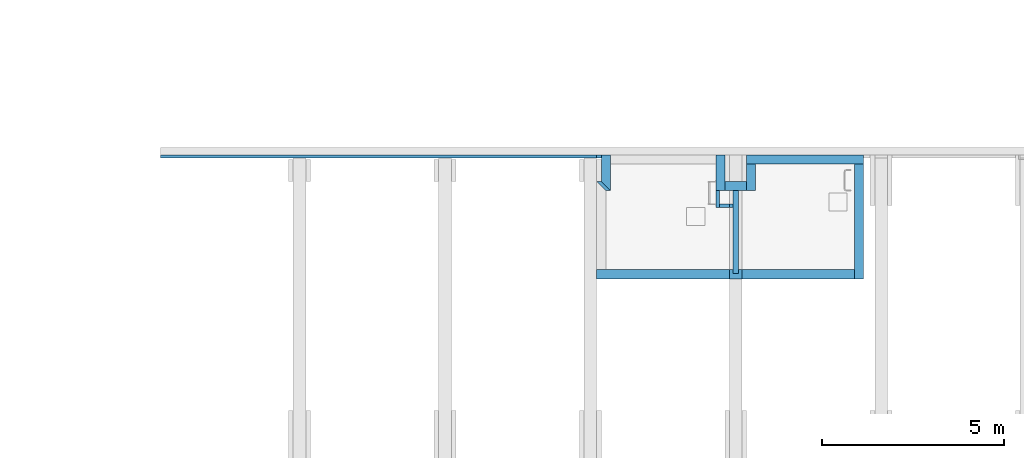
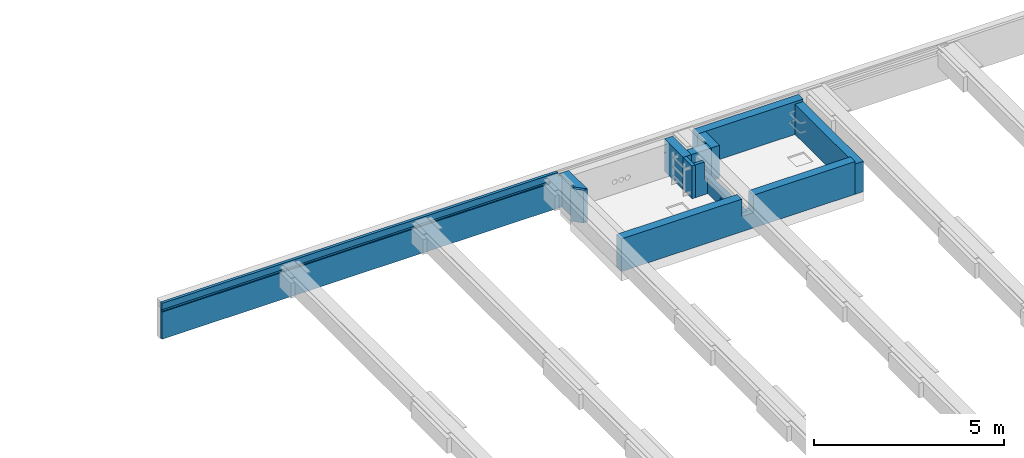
# One storey, part 12 of 17: 12 walls, 2 openings.
"""IFC2X3 building model written with IfcOpenShell, lengths in millimetres."""

import ifcopenshell
import ifcopenshell.guid

model = None  # the IFC model being written
_history = None  # IfcOwnerHistory: only IFC2X3 demands one
_inside = {}  # id of a spatial element -> (the spatial element, [elements in it])
_under = {}  # id of a project, library or spatial element -> (it, [spatial elements below it])
_declared = {}  # id of a project -> (the project, [libraries it declares])
_typed = {}  # id of a type object -> (the type object, [elements of that type])
_made_of = {}  # id of a material, layer set ... -> (it, [elements and type objects made of it])


def new_model(schema):
    """Start an empty IFC model of exactly this schema.

    Asked for "IFC4X3", IfcOpenShell would pick the latest addendum, in which some entities
    have other attributes; the version numbers below select the first issue.
    IFC2X3 requires an IfcOwnerHistory on every rooted entity: one is made here for all.
    """
    global model, _history
    if schema == "IFC4X3":
        model = ifcopenshell.file(schema_version=(4, 3, 0, 0))
    else:
        model = ifcopenshell.file(schema=schema)
    _inside.clear()
    _under.clear()
    _declared.clear()
    _typed.clear()
    _made_of.clear()
    _history = None
    if model.schema == "IFC2X3":
        org = make("IfcOrganization", Name="unknown")
        user = make(
            "IfcPersonAndOrganization",
            ThePerson=make("IfcPerson", FamilyName="unknown"),
            TheOrganization=org,
        )
        app = make(
            "IfcApplication",
            ApplicationDeveloper=org,
            Version="unknown",
            ApplicationFullName="unknown",
            ApplicationIdentifier="unknown",
        )
        _history = make(
            "IfcOwnerHistory",
            OwningUser=user,
            OwningApplication=app,
            ChangeAction="ADDED",
            CreationDate=0,
        )
    return model


def make(cls, **values):
    """One entity of the class cls with the attributes given. An attribute that is None is left unset."""
    return model.create_entity(
        cls, **{name: value for name, value in values.items() if value is not None}
    )


def entity(cls, *values):
    """Any entity or typed value of the class cls, its attributes in the order of the schema. None: left unset."""
    e = model.create_entity(cls)
    for i, value in enumerate(values):
        if value is not None:
            e[i] = value
    return e


def rooted(cls, **values):
    """An entity with a GlobalId (a new one), such as an element, a storey or a relation."""
    return make(cls, GlobalId=ifcopenshell.guid.new(), OwnerHistory=_history, **values)


def si_unit(unit_type, name, prefix=None):
    """IfcSIUnit, for example si_unit("LENGTHUNIT", "METRE", prefix="MILLI")."""
    return make("IfcSIUnit", UnitType=unit_type, Prefix=prefix, Name=name)


def converted_unit(unit_type, name, factor, base, dimensions=None, offset=None):
    """IfcConversionBasedUnit, such as the inch: factor (a typed value) times the base unit."""
    return make(
        "IfcConversionBasedUnit"
        if offset is None
        else "IfcConversionBasedUnitWithOffset",
        ConversionOffset=offset,
        Dimensions=None
        if dimensions is None
        else entity("IfcDimensionalExponents", *dimensions),
        UnitType=unit_type,
        Name=name,
        ConversionFactor=make(
            "IfcMeasureWithUnit", ValueComponent=factor, UnitComponent=base
        ),
    )


def derived_unit(unit_type, elements):
    """IfcDerivedUnit: a product of units, each with its exponent."""
    return make(
        "IfcDerivedUnit",
        Elements=[
            make("IfcDerivedUnitElement", Unit=unit, Exponent=power)
            for unit, power in elements
        ],
        UnitType=unit_type,
    )


def money_unit(currency):
    """IfcMonetaryUnit."""
    return make("IfcMonetaryUnit", Currency=currency)


def assignment(units):
    """IfcUnitAssignment: the units of a project."""
    return None if units is None else make("IfcUnitAssignment", Units=units)


def point(xyz):
    """IfcCartesianPoint."""
    return None if xyz is None else make("IfcCartesianPoint", Coordinates=xyz)


def direction(xyz):
    """IfcDirection."""
    return None if xyz is None else make("IfcDirection", DirectionRatios=xyz)


def frame(location, z_axis=None, x_axis=None):
    """IfcAxis2Placement3D, a coordinate frame: its origin and axes. An axis left out is left unset."""
    return make(
        "IfcAxis2Placement3D",
        Location=point(location),
        Axis=direction(z_axis),
        RefDirection=direction(x_axis),
    )


def origin_with_axes():
    """The frame at (0, 0, 0) with the z axis (0, 0, 1) and the x axis (1, 0, 0) written out."""
    return frame((0.0, 0.0, 0.0), z_axis=(0.0, 0.0, 1.0), x_axis=(1.0, 0.0, 0.0))


def place(relative_to, where):
    """IfcLocalPlacement: puts the frame where relative to a parent placement (None: the world)."""
    return make(
        "IfcLocalPlacement", PlacementRelTo=relative_to, RelativePlacement=where
    )


def context(
    kind, dimensions, precision=None, world=None, true_north=None, identifier=None
):
    """IfcGeometricRepresentationContext, for example the 3D "Model" context."""
    return make(
        "IfcGeometricRepresentationContext",
        ContextIdentifier=identifier,
        ContextType=kind,
        CoordinateSpaceDimension=dimensions,
        Precision=precision,
        WorldCoordinateSystem=world,
        TrueNorth=true_north,
    )


def subcontext(parent, identifier, kind, view, scale=None):
    """IfcGeometricRepresentationSubContext, for example "Body" below "Model"."""
    return make(
        "IfcGeometricRepresentationSubContext",
        ContextIdentifier=identifier,
        ContextType=kind,
        ParentContext=parent,
        TargetScale=scale,
        TargetView=view,
    )


def project(units=None, contexts=None):
    """IfcProject with its units and contexts."""
    return rooted(
        "IfcProject",
        Name="project",
        RepresentationContexts=contexts,
        UnitsInContext=assignment(units),
    )


def spatial(cls, under=None, at=None, **own):
    """A site, building, storey or space (cls), placed at a placement, below another one or the project."""
    s = rooted(cls, ObjectPlacement=at, **own)
    if under is not None:
        _under.setdefault(under.id(), (under, []))[1].append(s)
    return s


def faces_of(points, faces, orient=None, outer=None):
    """IfcFace entities. A face is a list of loops; a loop is a list of indices into points, from 0.

    orient and outer hold one flag for each loop. By default every Orientation is true, the
    first loop of a face is its IfcFaceOuterBound and the others are IfcFaceBound.
    """
    made = []
    for i, loops in enumerate(faces):
        bounds = []
        for j, loop in enumerate(loops):
            is_outer = j == 0 if outer is None else outer[i][j]
            bounds.append(
                make(
                    "IfcFaceOuterBound" if is_outer else "IfcFaceBound",
                    Bound=make("IfcPolyLoop", Polygon=[points[k] for k in loop]),
                    Orientation=True if orient is None else orient[i][j],
                )
            )
        made.append(make("IfcFace", Bounds=bounds))
    return made


def faceted_brep(points, faces, orient=None, outer=None, voids=None):
    """IfcFacetedBrep: a solid bounded by flat faces; with voids (closed shells), ...WithVoids."""
    shared = [point(p) for p in points]
    hull = make("IfcClosedShell", CfsFaces=faces_of(shared, faces, orient, outer))
    if voids is None:
        return make("IfcFacetedBrep", Outer=hull)
    return make(
        "IfcFacetedBrepWithVoids",
        Outer=hull,
        Voids=[
            make(cls, CfsFaces=faces_of(shared, fs, o, b)) for cls, fs, o, b in voids
        ],
    )


def shape(context_of_items, identifier, shape_type, items):
    """IfcShapeRepresentation: the items that make up one representation, for example the "Body"."""
    return make(
        "IfcShapeRepresentation",
        ContextOfItems=context_of_items,
        RepresentationIdentifier=identifier,
        RepresentationType=shape_type,
        Items=items,
    )


def material(Name=None, Category=None):
    """IfcMaterial."""
    return make("IfcMaterial", Name=Name, Category=Category)


def made_of(thing, what):
    """Note that an element or type object is made of a material, layer set ...; save() writes the relation."""
    if what is not None:
        _made_of.setdefault(what.id(), (what, []))[1].append(thing)
    return thing


def type_object(cls, material=None, **own):
    """A type object (cls), such as IfcWallType, which elements share."""
    return made_of(rooted(cls, **own), material)


def element(
    cls,
    number,
    at=None,
    inside=None,
    cuts=None,
    type_object=None,
    material=None,
    context=None,
    identifier="Body",
    shape_type=None,
    held_by="IfcProductDefinitionShape",
    body=None,
    shapes=None,
    **own,
):
    """One element of the class cls, such as IfcWall. Its Tag is "e" and its number.

    at: its placement. inside: the storey or other place that contains it. cuts: it is an
    opening in that element (IfcRelVoidsElement). A single representation is given by context,
    identifier, shape_type and body (its items); several are given by shapes. held_by: the class
    of the entity that holds the representations. save() writes the other relations.
    """
    e = rooted(cls, Tag="e%d" % number, ObjectPlacement=at, **own)
    if body is not None:
        shapes = [shape(context, identifier, shape_type, body)]
    if shapes is not None:
        e.Representation = make(held_by, Representations=shapes)
    if inside is not None:
        _inside.setdefault(inside.id(), (inside, []))[1].append(e)
    if cuts is not None:
        rooted(
            "IfcRelVoidsElement", RelatingBuildingElement=cuts, RelatedOpeningElement=e
        )
    if type_object is not None:
        _typed.setdefault(type_object.id(), (type_object, []))[1].append(e)
    return made_of(e, material)


def aggregate(whole, parts):
    """IfcRelAggregates: a whole, such as a stair, and the parts it consists of."""
    return rooted("IfcRelAggregates", RelatingObject=whole, RelatedObjects=parts)


def save(model, path):
    """Write the relations noted so far, then the file.

    IfcRelAggregates (storeys below a building ...), IfcRelContainedInSpatialStructure (elements
    in a storey), IfcRelDefinesByType, IfcRelAssociatesMaterial and IfcRelDeclares: one each for
    every whole, place, type object, material and project.
    """
    for whole, parts in _under.values():
        aggregate(whole, parts)
    for where, things in _inside.values():
        rooted(
            "IfcRelContainedInSpatialStructure",
            RelatedElements=things,
            RelatingStructure=where,
        )
    for kind, things in _typed.values():
        rooted("IfcRelDefinesByType", RelatedObjects=things, RelatingType=kind)
    for what, things in _made_of.values():
        rooted("IfcRelAssociatesMaterial", RelatedObjects=things, RelatingMaterial=what)
    for by, libraries in _declared.values():
        rooted("IfcRelDeclares", RelatingContext=by, RelatedDefinitions=libraries)
    model.write(path)


model = new_model("IFC2X3")

# Units and contexts
model_context = context("Model", 3, precision=0.01, world=origin_with_axes(), true_north=direction((0.0, 1.0)))
body_context = subcontext(model_context, "Body", "Model", "MODEL_VIEW")
ifc_project = project(units=[si_unit("LENGTHUNIT", "METRE", prefix="MILLI"), si_unit("AREAUNIT", "SQUARE_METRE"), si_unit("VOLUMEUNIT", "CUBIC_METRE"), converted_unit("PLANEANGLEUNIT", "DEGREE", entity("IfcPlaneAngleMeasure", 0.0174532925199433), si_unit("PLANEANGLEUNIT", "RADIAN"), dimensions=[0, 0, 0, 0, 0, 0, 0]), money_unit("EUR"), converted_unit("TIMEUNIT", "Year", entity("IfcTimeMeasure", 31557600.0), si_unit("TIMEUNIT", "SECOND"), dimensions=[0, 0, 1, 0, 0, 0, 0]), si_unit("MASSUNIT", "GRAM", prefix="KILO"), si_unit("THERMODYNAMICTEMPERATUREUNIT", "DEGREE_CELSIUS"), si_unit("LUMINOUSINTENSITYUNIT", "LUMEN"), si_unit("ENERGYUNIT", "JOULE", prefix="MEGA"), derived_unit("THERMALCONDUCTANCEUNIT", [(si_unit("POWERUNIT", "WATT"), 1), (si_unit("LENGTHUNIT", "METRE"), -1), (si_unit("THERMODYNAMICTEMPERATUREUNIT", "KELVIN"), -1)]), derived_unit("SPECIFICHEATCAPACITYUNIT", [(si_unit("ENERGYUNIT", "JOULE"), 1), (si_unit("MASSUNIT", "GRAM", prefix="KILO"), -1), (si_unit("THERMODYNAMICTEMPERATUREUNIT", "KELVIN"), -1)]), derived_unit("MASSDENSITYUNIT", [(si_unit("MASSUNIT", "GRAM", prefix="KILO"), 1), (si_unit("VOLUMEUNIT", "CUBIC_METRE"), -1)])], contexts=[model_context])

# Site, building, storey
site_placement = place(None, origin_with_axes())
site = spatial("IfcSite", under=ifc_project, at=site_placement, Name="<site naam>", CompositionType="ELEMENT")
building_placement = place(site_placement, origin_with_axes())
building = spatial("IfcBuilding", under=site, at=building_placement, Name="<Naam gebouw>", CompositionType="ELEMENT")
storey_placement = place(building_placement, frame((0.0, 0.0, -1100.0), z_axis=(0.0, 0.0, 1.0), x_axis=(1.0, 0.0, 0.0)))
storey = spatial("IfcBuildingStorey", under=building, at=storey_placement, Name="-1 Fundering", CompositionType="ELEMENT", Elevation=-1100.0)

# Wall
ifc_material_1 = material(Name="ALG - ISOLATIE")
wall_type_1 = type_object("IfcWallType", Name="ALG - ISOLATIE 85", PredefinedType="NOTDEFINED")
wall_1_placement = place(storey_placement, frame((40300.00000000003, 20135.00000000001, -50.00000000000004), z_axis=(0.0, 0.0, 1.0), x_axis=(-1.0, 0.0, 0.0)))
element("IfcWall", 1, at=wall_1_placement, inside=storey, type_object=wall_type_1, material=ifc_material_1, Name="21_Binnenwand_ALG", context=body_context, shape_type="Brep", body=[
    faceted_brep([(12125.0, 0.0, 1150.0), (125.0000481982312, 1.472790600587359e-05, 1150.0), (125.0000481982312, 1.472790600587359e-05, 1030.0), (0.0, 1.472790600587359e-05, 1030.0), (0.0, 0.0, 0.0), (12125.0, 0.0, 0.0), (12125.0, 85.0000000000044, 1150.0), (125.0000481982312, 85.00000000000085, 1150.0), (125.0000481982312, 85.00000000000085, 1030.0), (0.0, 85.00000000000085, 1030.0), (0.0, 85.00000000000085, 0.0), (12125.0, 85.0000000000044, 0.0), (12125.0, 50.00000000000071, 870.0000000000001), (12125.0, 50.00000000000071, 950.0000000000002), (12125.0, 85.0000000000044, 950.0000000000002), (12125.0, 85.0000000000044, 870.0000000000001), (374.9999999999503, 85.00000000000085, 950.0000000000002), (374.9999999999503, 85.00000000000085, 870.0000000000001), (374.9999999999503, 49.99999999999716, 950.0000000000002), (374.9999999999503, 49.99999999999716, 870.0000000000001)], [[[0, 1, 2, 3, 4, 5]], [[6, 7, 1, 0]], [[8, 2, 1, 7]], [[8, 9, 3, 2]], [[4, 3, 9, 10]], [[11, 5, 4, 10]], [[12, 13, 14, 6, 0, 5, 11, 15]], [[9, 8, 7, 6, 14, 16, 17, 15, 11, 10]], [[18, 13, 12, 19]], [[18, 16, 14, 13]], [[12, 15, 17, 19]], [[19, 17, 16, 18]]]),
])

# Wall, opening
ifc_material_2 = material(Name="kalkzandsteen")
wall_type_2 = type_object("IfcWallType", Name="kalkzandsteen 150", PredefinedType="NOTDEFINED")
wall_2_placement = place(storey_placement, frame((44000.00000000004, 19400.00000000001, -70.00000000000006), z_axis=(0.0, 0.0, 1.0), x_axis=(0.0, -1.0, 0.0)))
wall_2 = element("IfcWall", 2, at=wall_2_placement, inside=storey, type_object=wall_type_2, material=ifc_material_2, Name="22_Binnenwand_kalkzandsteen", context=body_context, shape_type="Brep", body=[
    faceted_brep([(250.0, -75.00000000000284, 490.0), (250.0, 75.00000000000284, 490.0), (250.0, 75.00000000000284, 0.0), (250.0, -75.00000000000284, 0.0), (2525.050153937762, 75.00000000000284, 490.0), (2525.050153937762, -75.00000000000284, 490.0), (2525.050153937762, 75.00000000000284, 0.0), (2525.050153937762, -75.00000000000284, 0.0)], [[[0, 1, 2, 3]], [[4, 1, 0, 5]], [[1, 4, 6, 2]], [[3, 2, 6, 7]], [[5, 0, 3, 7]], [[4, 5, 7, 6]]]),
])
opening_1_placement = place(wall_2_placement, frame((19400.00000000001, -44000.00000000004, 1170.0), z_axis=(0.0, 0.0, 1.0), x_axis=(0.0, 1.0, 0.0)))
element("IfcOpeningElement", 3, at=opening_1_placement, cuts=wall_2, Name="22_vloerluik_", context=body_context, shape_type="Brep", body=[
    faceted_brep([(43775.00000000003, 17899.94041759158, -970.0000000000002), (43775.00000000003, 17899.94041759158, -976.5616497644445), (44225.00000000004, 17899.94041759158, -976.5616497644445), (44225.00000000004, 17899.94041759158, -970.0000000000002), (43775.00000000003, 17899.94041759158, -963.438350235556), (43775.00000000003, 17902.21925463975, -950.514423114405), (43775.00000000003, 17906.70768742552, -938.1825553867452), (43775.00000000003, 17913.26933718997, -926.8174446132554), (43775.00000000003, 17921.70483152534, -916.7644139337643), (43775.00000000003, 17931.75786220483, -908.3289195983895), (43775.00000000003, 17943.12297297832, -901.7672698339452), (43775.00000000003, 17955.45484070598, -897.2788370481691), (43775.00000000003, 17968.37876782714, -895.0000000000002), (43775.00000000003, 17974.94041759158, -895.0000000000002), (43775.00000000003, 17981.50206735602, -895.0000000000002), (43775.00000000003, 17994.42599447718, -897.2788370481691), (43775.00000000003, 18006.75786220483, -901.7672698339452), (43775.00000000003, 18018.12297297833, -908.3289195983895), (43775.00000000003, 18028.17600365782, -916.7644139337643), (43775.00000000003, 18036.61149799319, -926.8174446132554), (43775.00000000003, 18043.17314775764, -938.1825553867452), (43775.00000000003, 18047.66158054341, -950.5144231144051), (43775.00000000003, 18049.94041759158, -963.438350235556), (43775.00000000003, 18049.94041759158, -970.0000000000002), (43775.00000000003, 18049.94041759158, -976.5616497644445), (43775.00000000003, 18047.66158054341, -989.4855768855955), (43775.00000000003, 18043.17314775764, -1001.817444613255), (43775.00000000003, 18036.61149799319, -1013.182555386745), (43775.00000000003, 18028.17600365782, -1023.235586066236), (43775.00000000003, 18018.12297297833, -1031.671080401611), (43775.00000000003, 18006.75786220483, -1038.232730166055), (43775.00000000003, 17994.42599447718, -1042.721162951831), (43775.00000000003, 17981.50206735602, -1045.0), (43775.00000000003, 17974.94041759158, -1045.0), (43775.00000000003, 17968.37876782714, -1045.0), (43775.00000000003, 17955.45484070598, -1042.721162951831), (43775.00000000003, 17943.12297297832, -1038.232730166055), (43775.00000000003, 17931.75786220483, -1031.671080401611), (43775.00000000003, 17921.70483152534, -1023.235586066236), (43775.00000000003, 17913.26933718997, -1013.182555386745), (43775.00000000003, 17906.70768742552, -1001.817444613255), (43775.00000000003, 17902.21925463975, -989.4855768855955), (44225.00000000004, 17902.21925463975, -989.4855768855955), (44225.00000000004, 17906.70768742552, -1001.817444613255), (44225.00000000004, 17913.26933718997, -1013.182555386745), (44225.00000000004, 17921.70483152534, -1023.235586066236), (44225.00000000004, 17931.75786220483, -1031.671080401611), (44225.00000000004, 17943.12297297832, -1038.232730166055), (44225.00000000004, 17955.45484070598, -1042.721162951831), (44225.00000000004, 17968.37876782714, -1045.0), (44225.00000000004, 17974.94041759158, -1045.0), (44225.00000000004, 17981.50206735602, -1045.0), (44225.00000000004, 17994.42599447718, -1042.721162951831), (44225.00000000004, 18006.75786220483, -1038.232730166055), (44225.00000000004, 18018.12297297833, -1031.671080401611), (44225.00000000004, 18028.17600365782, -1023.235586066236), (44225.00000000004, 18036.61149799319, -1013.182555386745), (44225.00000000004, 18043.17314775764, -1001.817444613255), (44225.00000000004, 18047.66158054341, -989.4855768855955), (44225.00000000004, 18049.94041759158, -976.5616497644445), (44225.00000000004, 18049.94041759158, -970.0000000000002), (44225.00000000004, 18049.94041759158, -963.438350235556), (44225.00000000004, 18047.66158054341, -950.5144231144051), (44225.00000000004, 18043.17314775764, -938.1825553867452), (44225.00000000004, 18036.61149799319, -926.8174446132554), (44225.00000000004, 18028.17600365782, -916.7644139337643), (44225.00000000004, 18018.12297297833, -908.3289195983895), (44225.00000000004, 18006.75786220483, -901.7672698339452), (44225.00000000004, 17994.42599447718, -897.2788370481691), (44225.00000000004, 17981.50206735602, -895.0000000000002), (44225.00000000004, 17974.94041759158, -895.0000000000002), (44225.00000000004, 17968.37876782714, -895.0000000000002), (44225.00000000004, 17955.45484070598, -897.2788370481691), (44225.00000000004, 17943.12297297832, -901.7672698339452), (44225.00000000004, 17931.75786220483, -908.3289195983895), (44225.00000000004, 17921.70483152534, -916.7644139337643), (44225.00000000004, 17913.26933718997, -926.8174446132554), (44225.00000000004, 17906.70768742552, -938.1825553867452), (44225.00000000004, 17902.21925463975, -950.514423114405), (44225.00000000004, 17899.94041759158, -963.438350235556)], [[[0, 1, 2, 3]], [[0, 4, 5, 6, 7, 8, 9, 10, 11, 12, 13, 14, 15, 16, 17, 18, 19, 20, 21, 22, 23, 24, 25, 26, 27, 28, 29, 30, 31, 32, 33, 34, 35, 36, 37, 38, 39, 40, 41, 1]], [[1, 41, 42, 2]], [[3, 2, 42, 43, 44, 45, 46, 47, 48, 49, 50, 51, 52, 53, 54, 55, 56, 57, 58, 59, 60, 61, 62, 63, 64, 65, 66, 67, 68, 69, 70, 71, 72, 73, 74, 75, 76, 77, 78, 79]], [[4, 0, 3, 79]], [[5, 4, 79, 78]], [[6, 5, 78, 77]], [[7, 6, 77, 76]], [[8, 7, 76, 75]], [[9, 8, 75, 74]], [[10, 9, 74, 73]], [[11, 10, 73, 72]], [[12, 11, 72, 71]], [[13, 12, 71, 70]], [[14, 13, 70, 69]], [[15, 14, 69, 68]], [[16, 15, 68, 67]], [[17, 16, 67, 66]], [[18, 17, 66, 65]], [[19, 18, 65, 64]], [[20, 19, 64, 63]], [[21, 20, 63, 62]], [[22, 21, 62, 61]], [[23, 22, 61, 60]], [[24, 23, 60, 59]], [[25, 24, 59, 58]], [[26, 25, 58, 57]], [[27, 26, 57, 56]], [[28, 27, 56, 55]], [[29, 28, 55, 54]], [[30, 29, 54, 53]], [[31, 30, 53, 52]], [[32, 31, 52, 51]], [[33, 32, 51, 50]], [[34, 33, 50, 49]], [[35, 34, 49, 48]], [[36, 35, 48, 47]], [[37, 36, 47, 46]], [[38, 37, 46, 45]], [[39, 38, 45, 44]], [[40, 39, 44, 43]], [[41, 40, 43, 42]]]),
])

# Walls
ifc_material_3 = material(Name="beton")
wall_type_3 = type_object("IfcWallType", Name="beton 250", PredefinedType="NOTDEFINED")
wall_3_placement = place(storey_placement, frame((47512.88438913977, 20135.00000000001, -70.00000000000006), z_axis=(0.0, 0.0, 1.0), x_axis=(0.0, -1.0, 0.0)))
element("IfcWall", 4, at=wall_3_placement, inside=storey, type_object=wall_type_3, material=ifc_material_3, Name="22_Binnenwand_beton", context=body_context, shape_type="Brep", body=[
    faceted_brep([(250.0, -250.0, 970.0000000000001), (250.0, 0.0, 970.0000000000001), (250.0, 0.0, 20.00000000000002), (250.0, -250.0, 20.00000000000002), (3410.050165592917, 0.0, 970.0000000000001), (3410.050165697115, -250.0, 970.0000000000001), (3410.050137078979, 0.0, 0.0), (0.0, 0.0, 0.0), (0.0, 0.0, 20.00000000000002), (0.0, -250.0, 20.00000000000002), (0.0, -250.0, 0.0), (3410.050138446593, -250.0, 0.0)], [[[0, 1, 2, 3]], [[4, 1, 0, 5]], [[1, 4, 6, 7, 8, 2]], [[2, 8, 9, 3]], [[5, 0, 3, 9, 10, 11]], [[4, 5, 11, 6]], [[11, 10, 7, 6]], [[9, 8, 7, 10]]]),
])
wall_4_placement = place(storey_placement, frame((47512.88438913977, 16724.94986292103, -96.99999999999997), z_axis=(0.0, 0.0, 1.0), x_axis=(-1.0, -5.470459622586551e-09, 0.0)))
element("IfcWall", 5, at=wall_4_placement, inside=storey, type_object=wall_type_3, material=ifc_material_3, Name="22_Binnenwand_beton", context=body_context, shape_type="Brep", body=[
    faceted_brep([(7337.884391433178, -250.0000401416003, 1077.0), (3687.884387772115, -250.0000201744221, 1077.0), (3687.884387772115, -250.0000201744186, 516.9999999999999), (3337.884387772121, -250.0000182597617, 516.9999999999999), (3337.884387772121, -250.0000182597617, 1077.0), (249.9999986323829, -250.0000013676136, 1077.0), (249.9999986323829, -250.0000013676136, 26.99999999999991), (7337.884423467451, -250.0000401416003, 26.99999999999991), (7337.884392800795, -9.275996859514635e-06, 1077.0), (3687.884389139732, 1.069118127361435e-05, 1077.0), (3687.884389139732, 7.48851647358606e-06, 516.9999999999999), (3337.884389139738, 9.403173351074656e-06, 516.9999999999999), (3337.884389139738, 1.260584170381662e-05, 1077.0), (250.0, 2.94979898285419e-05, 1077.0), (250.0, 2.629532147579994e-05, 26.99999999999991), (7337.884424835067, -1.24786652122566e-05, 26.99999999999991)], [[[0, 1, 2, 3, 4, 5, 6, 7]], [[0, 8, 9, 1]], [[9, 10, 2, 1]], [[10, 11, 3, 2]], [[3, 11, 12, 4]], [[13, 5, 4, 12]], [[5, 13, 14, 6]], [[7, 6, 14, 15]], [[8, 0, 7, 15]], [[12, 11, 10, 9, 8, 15, 14, 13]]]),
])

# Wall, opening
wall_5_placement = place(storey_placement, frame((47512.88438913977, 20135.00000000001, -70.00000000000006), z_axis=(0.0, 0.0, 1.0), x_axis=(-1.0, 0.0, 0.0)))
wall_5 = element("IfcWall", 6, at=wall_5_placement, inside=storey, type_object=wall_type_3, material=ifc_material_3, Name="22_Binnenwand_beton", context=body_context, shape_type="Brep", body=[
    faceted_brep([(250.0, 0.0, 0.0), (3212.884389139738, 0.0, 0.0), (3212.884389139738, 1.472790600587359e-05, 1050.0), (0.0, 1.472790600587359e-05, 1050.0), (0.0, 0.0, 20.00000000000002), (250.0, 0.0, 20.00000000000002), (250.0, 250.0, 0.0), (3212.884389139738, 250.0, 0.0), (3212.884389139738, 250.0, 1050.0), (0.0, 250.0, 1050.0), (0.0, 250.0, 20.00000000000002), (250.0, 250.0, 20.00000000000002)], [[[0, 1, 2, 3, 4, 5]], [[6, 7, 1, 0]], [[1, 7, 8, 2]], [[2, 8, 9, 3]], [[10, 4, 3, 9]], [[4, 10, 11, 5]], [[5, 11, 6, 0]], [[11, 10, 9, 8, 7, 6]]]),
])
opening_2_placement = place(wall_5_placement, frame((47512.88438913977, 20135.00000000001, 1170.0), z_axis=(0.0, 0.0, 1.0), x_axis=(-1.0, 0.0, 0.0)))
element("IfcOpeningElement", 7, at=opening_2_placement, cuts=wall_5, Name="22_vloerluik_", context=body_context, shape_type="Brep", body=[
    faceted_brep([(47137.88437245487, 20385.00000000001, -725.0), (47137.88437245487, 20385.00000000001, -727.1872165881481), (47137.88437245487, 19635.00000000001, -727.1872165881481), (47137.88437245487, 19635.00000000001, -725.0), (47137.88437245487, 20385.00000000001, -722.8127834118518), (47138.64398480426, 20385.00000000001, -718.5048077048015), (47140.14012906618, 20385.00000000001, -714.394185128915), (47142.32734565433, 20385.00000000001, -710.6058148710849), (47145.13917709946, 20385.00000000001, -707.254804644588), (47148.49018732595, 20385.00000000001, -704.442973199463), (47152.27855758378, 20385.00000000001, -702.255756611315), (47156.38918015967, 20385.00000000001, -700.7596123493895), (47160.69715586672, 20385.00000000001, -700.0), (47162.88437245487, 20385.00000000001, -700.0), (47165.07158904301, 20385.00000000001, -700.0), (47169.37956475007, 20385.00000000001, -700.7596123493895), (47173.49018732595, 20385.00000000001, -702.255756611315), (47177.27855758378, 20385.00000000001, -704.442973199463), (47180.62956781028, 20385.00000000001, -707.254804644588), (47183.44139925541, 20385.00000000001, -710.6058148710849), (47185.62861584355, 20385.00000000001, -714.394185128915), (47187.12476010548, 20385.00000000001, -718.5048077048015), (47187.88437245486, 20385.00000000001, -722.8127834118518), (47187.88437245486, 20385.00000000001, -725.0), (47187.88437245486, 20385.00000000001, -727.1872165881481), (47187.12476010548, 20385.00000000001, -731.4951922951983), (47185.62861584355, 20385.00000000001, -735.605814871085), (47183.44139925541, 20385.00000000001, -739.394185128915), (47180.62956781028, 20385.00000000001, -742.745195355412), (47177.27855758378, 20385.00000000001, -745.557026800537), (47173.49018732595, 20385.00000000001, -747.7442433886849), (47169.37956475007, 20385.00000000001, -749.2403876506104), (47165.07158904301, 20385.00000000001, -750.0), (47162.88437245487, 20385.00000000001, -750.0), (47160.69715586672, 20385.00000000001, -750.0), (47156.38918015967, 20385.00000000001, -749.2403876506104), (47152.27855758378, 20385.00000000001, -747.7442433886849), (47148.49018732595, 20385.00000000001, -745.557026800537), (47145.13917709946, 20385.00000000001, -742.745195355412), (47142.32734565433, 20385.00000000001, -739.394185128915), (47140.14012906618, 20385.00000000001, -735.605814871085), (47138.64398480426, 20385.00000000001, -731.4951922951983), (47138.64398480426, 19635.00000000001, -731.4951922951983), (47140.14012906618, 19635.00000000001, -735.605814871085), (47142.32734565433, 19635.00000000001, -739.394185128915), (47145.13917709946, 19635.00000000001, -742.745195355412), (47148.49018732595, 19635.00000000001, -745.557026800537), (47152.27855758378, 19635.00000000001, -747.7442433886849), (47156.38918015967, 19635.00000000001, -749.2403876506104), (47160.69715586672, 19635.00000000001, -750.0), (47162.88437245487, 19635.00000000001, -750.0), (47165.07158904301, 19635.00000000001, -750.0), (47169.37956475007, 19635.00000000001, -749.2403876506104), (47173.49018732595, 19635.00000000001, -747.7442433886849), (47177.27855758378, 19635.00000000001, -745.557026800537), (47180.62956781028, 19635.00000000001, -742.745195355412), (47183.44139925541, 19635.00000000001, -739.394185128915), (47185.62861584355, 19635.00000000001, -735.605814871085), (47187.12476010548, 19635.00000000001, -731.4951922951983), (47187.88437245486, 19635.00000000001, -727.1872165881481), (47187.88437245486, 19635.00000000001, -725.0), (47187.88437245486, 19635.00000000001, -722.8127834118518), (47187.12476010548, 19635.00000000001, -718.5048077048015), (47185.62861584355, 19635.00000000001, -714.394185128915), (47183.44139925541, 19635.00000000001, -710.6058148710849), (47180.62956781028, 19635.00000000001, -707.254804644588), (47177.27855758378, 19635.00000000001, -704.442973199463), (47173.49018732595, 19635.00000000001, -702.255756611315), (47169.37956475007, 19635.00000000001, -700.7596123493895), (47165.07158904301, 19635.00000000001, -700.0), (47162.88437245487, 19635.00000000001, -700.0), (47160.69715586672, 19635.00000000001, -700.0), (47156.38918015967, 19635.00000000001, -700.7596123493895), (47152.27855758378, 19635.00000000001, -702.255756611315), (47148.49018732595, 19635.00000000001, -704.442973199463), (47145.13917709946, 19635.00000000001, -707.254804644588), (47142.32734565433, 19635.00000000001, -710.6058148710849), (47140.14012906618, 19635.00000000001, -714.394185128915), (47138.64398480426, 19635.00000000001, -718.5048077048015), (47137.88437245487, 19635.00000000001, -722.8127834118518)], [[[0, 1, 2, 3]], [[0, 4, 5, 6, 7, 8, 9, 10, 11, 12, 13, 14, 15, 16, 17, 18, 19, 20, 21, 22, 23, 24, 25, 26, 27, 28, 29, 30, 31, 32, 33, 34, 35, 36, 37, 38, 39, 40, 41, 1]], [[1, 41, 42, 2]], [[3, 2, 42, 43, 44, 45, 46, 47, 48, 49, 50, 51, 52, 53, 54, 55, 56, 57, 58, 59, 60, 61, 62, 63, 64, 65, 66, 67, 68, 69, 70, 71, 72, 73, 74, 75, 76, 77, 78, 79]], [[4, 0, 3, 79]], [[5, 4, 79, 78]], [[6, 5, 78, 77]], [[7, 6, 77, 76]], [[8, 7, 76, 75]], [[9, 8, 75, 74]], [[10, 9, 74, 73]], [[11, 10, 73, 72]], [[12, 11, 72, 71]], [[13, 12, 71, 70]], [[14, 13, 70, 69]], [[15, 14, 69, 68]], [[16, 15, 68, 67]], [[17, 16, 67, 66]], [[18, 17, 66, 65]], [[19, 18, 65, 64]], [[20, 19, 64, 63]], [[21, 20, 63, 62]], [[22, 21, 62, 61]], [[23, 22, 61, 60]], [[24, 23, 60, 59]], [[25, 24, 59, 58]], [[26, 25, 58, 57]], [[27, 26, 57, 56]], [[28, 27, 56, 55]], [[29, 28, 55, 54]], [[30, 29, 54, 53]], [[31, 30, 53, 52]], [[32, 31, 52, 51]], [[33, 32, 51, 50]], [[34, 33, 50, 49]], [[35, 34, 49, 48]], [[36, 35, 48, 47]], [[37, 36, 47, 46]], [[38, 37, 46, 45]], [[39, 38, 45, 44]], [[40, 39, 44, 43]], [[41, 40, 43, 42]]]),
])

# Walls
wall_6_placement = place(storey_placement, frame((40300.00000000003, 19400.00008434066, -96.99999999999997), z_axis=(0.0, 0.0, 1.0), x_axis=(-1.0, 0.0, 0.0)))
element("IfcWall", 8, at=wall_6_placement, inside=storey, type_object=wall_type_3, material=ifc_material_3, Name="22_Binnenwand_beton", context=body_context, shape_type="Brep", body=[
    faceted_brep([(-250.0, 250.0, 26.99999999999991), (2.361652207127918e-05, -7.393133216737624e-05, 26.99999999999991), (2.422197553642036e-06, -7.58270246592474e-06, 1077.0), (-250.0, 250.0, 1077.0), (-125.0000000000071, 250.0, 26.99999999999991), (125.0000356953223, -7.393133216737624e-05, 26.99999999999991), (125.0000036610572, -7.58270246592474e-06, 1077.0), (-125.0000000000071, 250.0, 1077.0)], [[[0, 1, 2, 3]], [[4, 5, 1, 0]], [[1, 5, 6, 2]], [[2, 6, 7, 3]], [[4, 0, 3, 7]], [[5, 4, 7, 6]]]),
])
wall_7_placement = place(storey_placement, frame((40300.00000000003, 20135.00000000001, -96.99999999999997), z_axis=(0.0, 0.0, 1.0), x_axis=(0.0, -1.0, 0.0)))
element("IfcWall", 9, at=wall_7_placement, inside=storey, type_object=wall_type_3, material=ifc_material_3, Name="22_Binnenwand_beton", context=body_context, shape_type="Brep", body=[
    faceted_brep([(0.0, 250.0, 46.99999999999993), (0.0, 0.0, 46.99999999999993), (1.472790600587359e-05, 0.0, 1077.0), (1.472790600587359e-05, 250.0, 1077.0), (2.965914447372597e-05, 250.0, 26.99999999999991), (2.965914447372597e-05, -2.361652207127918e-05, 26.99999999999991), (734.9998417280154, -2.361652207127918e-05, 26.99999999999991), (734.9999080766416, -2.422204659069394e-06, 1077.0), (984.9999156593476, 250.0, 1077.0), (984.9999156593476, 250.0, 26.99999999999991)], [[[0, 1, 2, 3]], [[1, 0, 4, 5]], [[5, 6, 7, 2, 1]], [[2, 7, 8, 3]], [[4, 0, 3, 8, 9]], [[9, 6, 5, 4]], [[6, 9, 8, 7]]]),
])
wall_8_placement = place(storey_placement, frame((43700.00000000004, 20135.00000000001, -96.99999999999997), z_axis=(0.0, 0.0, 1.0), x_axis=(0.0, -1.0, 0.0)))
element("IfcWall", 10, at=wall_8_placement, inside=storey, type_object=wall_type_3, material=ifc_material_3, Name="22_Binnenwand_beton", context=body_context, shape_type="Brep", body=[
    faceted_brep([(2.965914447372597e-05, -1.876633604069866e-05, 26.99999999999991), (2.965914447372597e-05, -250.0, 26.99999999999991), (1.472790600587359e-05, -250.0, 1077.0), (1.472790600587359e-05, -1.924753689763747e-06, 1077.0), (984.9999999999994, 0.0, 26.99999999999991), (984.9999999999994, -250.0, 26.99999999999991), (734.9999496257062, -1.876633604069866e-05, 26.99999999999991), (984.9999999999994, -250.0, 1077.0), (984.9999999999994, 0.0, 1077.0)], [[[0, 1, 2, 3]], [[4, 5, 1, 0, 6]], [[1, 5, 7, 2]], [[2, 7, 8, 3]], [[6, 0, 3, 8, 4]], [[5, 4, 8, 7]]]),
])
wall_9_placement = place(storey_placement, frame((44300.00000000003, 20135.00000000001, -96.99999999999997), z_axis=(0.0, 0.0, 1.0), x_axis=(0.0, -1.0, 0.0)))
element("IfcWall", 11, at=wall_9_placement, inside=storey, type_object=wall_type_3, material=ifc_material_3, Name="22_Binnenwand_beton", context=body_context, shape_type="Brep", body=[
    faceted_brep([(250.0, 250.0, 26.99999999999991), (250.0, 3.921189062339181e-05, 26.99999999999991), (250.0, 4.021735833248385e-06, 1077.0), (250.0, 250.0, 1077.0), (984.9999999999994, 0.0, 26.99999999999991), (734.9999496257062, 3.921189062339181e-05, 26.99999999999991), (984.9999999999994, 250.0, 26.99999999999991), (984.9999999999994, 0.0, 1077.0), (984.9999999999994, 250.0, 1077.0)], [[[0, 1, 2, 3]], [[4, 5, 1, 0, 6]], [[5, 4, 7, 2, 1]], [[2, 7, 8, 3]], [[6, 0, 3, 8]], [[4, 6, 8, 7]]]),
])
wall_10_placement = place(storey_placement, frame((43700.00000000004, 19400.00000000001, -96.99999999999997), z_axis=(0.0, 0.0, 1.0), x_axis=(1.0, 0.0, 0.0)))
element("IfcWall", 12, at=wall_10_placement, inside=storey, type_object=wall_type_3, material=ifc_material_3, Name="22_Binnenwand_beton", context=body_context, shape_type="Brep", body=[
    faceted_brep([(-1.876633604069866e-05, 5.037429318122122e-05, 26.99999999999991), (-1.924753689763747e-06, 5.166594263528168e-06, 1077.0), (600.0000040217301, 5.166594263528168e-06, 1077.0), (600.000039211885, 5.037429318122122e-05, 26.99999999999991), (0.0, -250.0, 26.99999999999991), (0.0, -250.0, 1077.0), (599.9999999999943, -250.0, 1077.0), (599.9999999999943, -250.0, 26.99999999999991)], [[[0, 1, 2, 3]], [[4, 5, 1, 0]], [[5, 6, 2, 1]], [[3, 2, 6, 7]], [[4, 0, 3, 7]], [[7, 6, 5, 4]]]),
])
wall_type_4 = type_object("IfcWallType", Name="kalkzandsteen 100", PredefinedType="NOTDEFINED")
wall_11_placement = place(storey_placement, frame((43450.00000000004, 19150.00000000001, -230.0), z_axis=(0.0, 0.0, 1.0), x_axis=(0.0, -1.0, 0.0)))
element("IfcWall", 13, at=wall_11_placement, inside=storey, type_object=wall_type_4, material=ifc_material_2, Name="22_Binnenwand_kalkzandsteen", context=body_context, shape_type="Brep", body=[
    faceted_brep([(0.0, 0.0, 159.9999999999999), (0.0, 0.0, 1210.0), (0.0, 100.0000000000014, 1210.0), (0.0, 100.0000000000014, 159.9999999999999), (465.0400460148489, 0.0, 159.9999999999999), (465.0400460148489, 0.0, 1210.0), (465.0400460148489, 100.0000000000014, 1210.0), (465.0400460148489, 100.0000000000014, 159.9999999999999)], [[[0, 1, 2, 3]], [[4, 5, 1, 0]], [[5, 6, 2, 1]], [[3, 2, 6, 7]], [[4, 0, 3, 7]], [[7, 6, 5, 4]]]),
])
wall_12_placement = place(storey_placement, frame((43450.00000000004, 18684.95995398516, -230.0), z_axis=(0.0, 0.0, 1.0), x_axis=(1.0, 0.0, 0.0)))
element("IfcWall", 14, at=wall_12_placement, inside=storey, type_object=wall_type_4, material=ifc_material_2, Name="22_Binnenwand_kalkzandsteen", context=body_context, shape_type="Brep", body=[
    faceted_brep([(375.0, 100.0000000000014, 1210.0), (375.0, 100.0000000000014, 649.9999999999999), (474.9999999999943, 100.0000000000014, 649.9999999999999), (474.9999999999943, 100.0000000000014, 159.9999999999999), (100.0000000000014, 100.0000000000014, 159.9999999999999), (100.0000000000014, 100.0000000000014, 1210.0), (375.0, 0.0, 1210.0), (375.0, 0.0, 649.9999999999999), (474.9999999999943, 0.0, 649.9999999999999), (474.9999999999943, 0.0, 159.9999999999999), (100.0000000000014, 0.0, 159.9999999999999), (100.0000000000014, 0.0, 1210.0)], [[[0, 1, 2, 3, 4, 5]], [[1, 0, 6, 7]], [[8, 2, 1, 7]], [[2, 8, 9, 3]], [[9, 10, 4, 3]], [[4, 10, 11, 5]], [[6, 0, 5, 11]], [[7, 6, 11, 10, 9, 8]]]),
])

save(model, "model.ifc")
